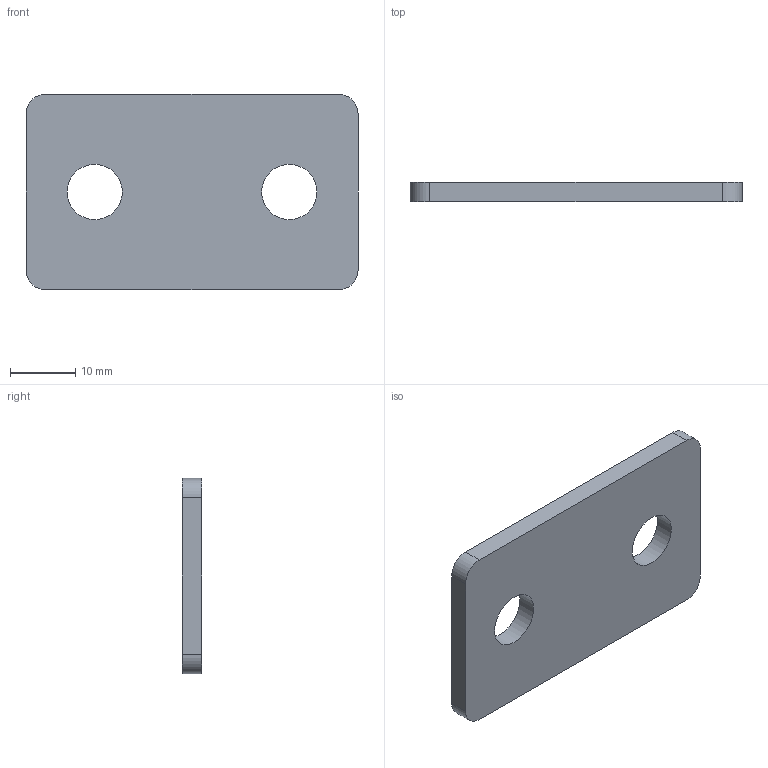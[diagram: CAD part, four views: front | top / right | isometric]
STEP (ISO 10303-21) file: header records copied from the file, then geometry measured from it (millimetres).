
FILE_DESCRIPTION(/* description */ (''),/* implementation_level */ '2;1');
FILE_NAME(/* name */ 'spojka 51 x 30 x 3 (P1024) v1.step',/* time_stamp */ '2025-09-11T08:39:18+02:00',/* author */ (''),/* organization */ (''),/* preprocessor_version */ 'ST-DEVELOPER v20.1',/* originating_system */ 'Autodesk Translation Framework v14.10.0.0',/* authorisation */ '');
FILE_SCHEMA (('AUTOMOTIVE_DESIGN { 1 0 10303 214 3 1 1 }'));
Length unit declared in the file: millimetre
Products named in the file (1): spojka 51 x 30 x 3 (P1024)
Bounding box: 51 x 3 x 30 mm (x, y, z)
Volume: 4226.4 mm3; surface area: 3448.3 mm2
Topology: 1 solids, 1 shells, 12 faces, 30 edges, 20 vertices
Faces by surface type: cylinder 6, plane 6
Full cylindrical faces by diameter (mm): 8.5 x2
Entity records: 407 total; most frequent: DIRECTION 68, CARTESIAN_POINT 63, ORIENTED_EDGE 60, EDGE_CURVE 30, AXIS2_PLACEMENT_3D 25, VERTEX_POINT 20, LINE 18, VECTOR 18
